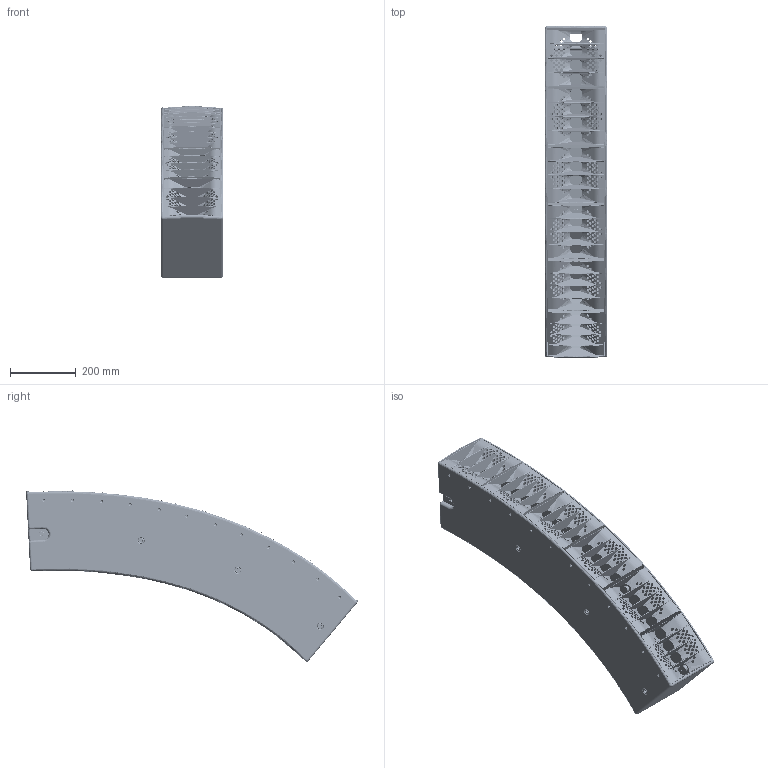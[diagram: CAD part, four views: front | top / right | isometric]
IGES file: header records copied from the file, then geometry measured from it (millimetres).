
Start section: SolidWorks IGES file using analytic representation for surfaces
Global section: file name: C:\Documents and Settings\Administrator\My Documents\Michl\SolidWorks\GL24j\Homepage\GL24j.IGS; native system: SolidWorks 2009; preprocessor: SolidWorks 2009; author: Administrator; date: 150715.112929; units: millimetre
Bounding box: 189 x 1005.5 x 519.41 mm (x, y, z)
Surface area: 2734522.7 mm2 (no closed solid volume)
Topology: 0 solids, 0 shells, 2229 faces, 67112 edges, 67094 vertices
Faces by surface type: revolution 1432, bspline 797
